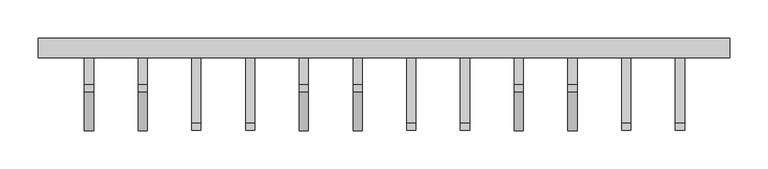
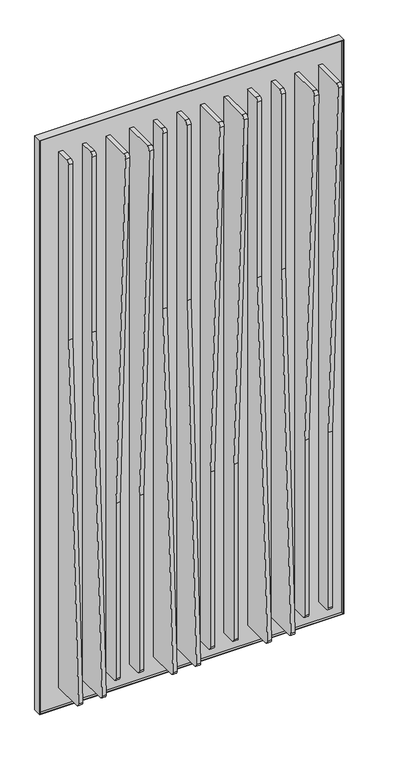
"""IFC4 building model written with IfcOpenShell, lengths in millimetres: proxy geometry, Frames_Plungle 2.3dm."""

from ifc_helpers import new_model, si_unit, point, frame, frame_2d, origin, place, context, project, spatial, polyline, circle_curve, trimmed, segment, composite_curve, outline, extrude, source, transform, mapped, element, save


def generic_models_3c122afe(model_context):
    return source(origin(), model_context, "Body", "SweptSolid", [
        extrude(outline(composite_curve([segment(polyline([(109.527821, 1808.782073), (151.027821, 1808.782073), (151.027821, 125.282073), (59.1906878, 125.282073)]), True, "CONTINUOUS"), segment(trimmed(circle_curve(frame_2d((59.1906878, 135.282073)), 10.0), [point((59.1906878, 125.282073))], [point((49.2009157, 135.7342385))], False, "CARTESIAN"), True, "CONTINUOUS"), segment(polyline([(49.2009157, 135.7342385), (99.527821, 1247.6154063), (99.527821, 1798.782073)]), True, "CONTINUOUS"), segment(trimmed(circle_curve(frame_2d((109.527821, 1798.782073)), 10.0), [point((99.527821, 1798.782073))], [point((109.527821, 1808.782073))], False, "CARTESIAN"), True, "CONTINUOUS")], self_intersect=False)), frame((7887.1043094, 0.0, 0.0), z_axis=(1.0, 0.0, 0.0), x_axis=(0.0, 1.0, 0.0)), (0.0, 0.0, 1.0), 12.0),
        extrude(outline(composite_curve([segment(polyline([(109.527821, 1808.782073), (151.027821, 1808.782073), (151.027821, 125.282073), (59.1906878, 125.282073)]), True, "CONTINUOUS"), segment(trimmed(circle_curve(frame_2d((59.1906878, 135.282073)), 10.0), [point((59.1906878, 125.282073))], [point((49.2009157, 135.7342385))], False, "CARTESIAN"), True, "CONTINUOUS"), segment(polyline([(49.2009157, 135.7342385), (99.527821, 1247.6154063), (99.527821, 1798.782073)]), True, "CONTINUOUS"), segment(trimmed(circle_curve(frame_2d((109.527821, 1798.782073)), 10.0), [point((99.527821, 1798.782073))], [point((109.527821, 1808.782073))], False, "CARTESIAN"), True, "CONTINUOUS")], self_intersect=False)), frame((7816.8543094, 0.0, 0.0), z_axis=(1.0, 0.0, 0.0), x_axis=(0.0, 1.0, 0.0)), (0.0, 0.0, 1.0), 12.0),
        extrude(outline(composite_curve([segment(polyline([(109.527821, 1809.7876144), (151.027821, 1809.7876144), (151.027821, 126.2876144), (59.1906878, 126.2876144)]), True, "CONTINUOUS"), segment(trimmed(circle_curve(frame_2d((59.1906878, 136.2876144)), 10.0), [point((59.1906878, 126.2876144))], [point((49.2009157, 136.7397799))], False, "CARTESIAN"), True, "CONTINUOUS"), segment(polyline([(49.2009157, 136.7397799), (99.527821, 1248.6209477), (99.527821, 1799.7876144)]), True, "CONTINUOUS"), segment(trimmed(circle_curve(frame_2d((109.527821, 1799.7876144)), 10.0), [point((99.527821, 1799.7876144))], [point((109.527821, 1809.7876144))], False, "CARTESIAN"), True, "CONTINUOUS")], self_intersect=False)), frame((8168.1031988, 0.0, 0.0), z_axis=(1.0, 0.0, 0.0), x_axis=(0.0, 1.0, 0.0)), (0.0, 0.0, 1.0), 12.0),
        extrude(outline(composite_curve([segment(polyline([(109.527821, 1808.782073), (151.027821, 1808.782073), (151.027821, 125.282073), (59.1906878, 125.282073)]), True, "CONTINUOUS"), segment(trimmed(circle_curve(frame_2d((59.1906878, 135.282073)), 10.0), [point((59.1906878, 125.282073))], [point((49.2009157, 135.7342385))], False, "CARTESIAN"), True, "CONTINUOUS"), segment(polyline([(49.2009157, 135.7342385), (99.527821, 1247.6154063), (99.527821, 1798.782073)]), True, "CONTINUOUS"), segment(trimmed(circle_curve(frame_2d((109.527821, 1798.782073)), 10.0), [point((99.527821, 1798.782073))], [point((109.527821, 1808.782073))], False, "CARTESIAN"), True, "CONTINUOUS")], self_intersect=False)), frame((8097.8531988, 0.0, 0.0), z_axis=(1.0, 0.0, 0.0), x_axis=(0.0, 1.0, 0.0)), (0.0, 0.0, 1.0), 12.0),
        extrude(outline(composite_curve([segment(polyline([(109.527821, 1808.782073), (151.027821, 1808.782073), (151.027821, 125.282073), (59.1906878, 125.282073)]), True, "CONTINUOUS"), segment(trimmed(circle_curve(frame_2d((59.1906878, 135.282073)), 10.0), [point((59.1906878, 125.282073))], [point((49.2009157, 135.7342385))], False, "CARTESIAN"), True, "CONTINUOUS"), segment(polyline([(49.2009157, 135.7342385), (99.527821, 1247.6154063), (99.527821, 1798.782073)]), True, "CONTINUOUS"), segment(trimmed(circle_curve(frame_2d((109.527821, 1798.782073)), 10.0), [point((99.527821, 1798.782073))], [point((109.527821, 1808.782073))], False, "CARTESIAN"), True, "CONTINUOUS")], self_intersect=False)), frame((8449.1041754, 0.0, 0.0), z_axis=(1.0, 0.0, 0.0), x_axis=(0.0, 1.0, 0.0)), (0.0, 0.0, 1.0), 12.0),
        extrude(outline(composite_curve([segment(polyline([(109.527821, 1808.782073), (151.027821, 1808.782073), (151.027821, 125.282073), (59.1906878, 125.282073)]), True, "CONTINUOUS"), segment(trimmed(circle_curve(frame_2d((59.1906878, 135.282073)), 10.0), [point((59.1906878, 125.282073))], [point((49.2009157, 135.7342385))], False, "CARTESIAN"), True, "CONTINUOUS"), segment(polyline([(49.2009157, 135.7342385), (99.527821, 1247.6154063), (99.527821, 1798.782073)]), True, "CONTINUOUS"), segment(trimmed(circle_curve(frame_2d((109.527821, 1798.782073)), 10.0), [point((99.527821, 1798.782073))], [point((109.527821, 1808.782073))], False, "CARTESIAN"), True, "CONTINUOUS")], self_intersect=False)), frame((8378.8541754, 0.0, 0.0), z_axis=(1.0, 0.0, 0.0), x_axis=(0.0, 1.0, 0.0)), (0.0, 0.0, 1.0), 12.0),
        extrude(outline(composite_curve([segment(trimmed(circle_curve(frame_2d((109.527821, 136.2876144)), 10.0), [point((109.527821, 126.2876144))], [point((99.527821, 136.2876144))], False, "CARTESIAN"), True, "CONTINUOUS"), segment(polyline([(99.527821, 136.2876144), (99.527821, 687.4542811), (49.2009157, 1799.3354489)]), True, "CONTINUOUS"), segment(trimmed(circle_curve(frame_2d((59.1906878, 1799.7876144)), 10.0), [point((49.2009157, 1799.3354489))], [point((59.1906878, 1809.7876144))], False, "CARTESIAN"), True, "CONTINUOUS"), segment(polyline([(59.1906878, 1809.7876144), (151.027821, 1809.7876144), (151.027821, 126.2876144), (109.527821, 126.2876144)]), True, "CONTINUOUS")], self_intersect=False)), frame((8589.6043094, 0.0, 0.0), z_axis=(1.0, 0.0, 0.0), x_axis=(0.0, 1.0, 0.0)), (0.0, 0.0, 1.0), 12.0),
        extrude(outline(composite_curve([segment(trimmed(circle_curve(frame_2d((109.527821, 136.2876144)), 10.0), [point((109.527821, 126.2876144))], [point((99.527821, 136.2876144))], False, "CARTESIAN"), True, "CONTINUOUS"), segment(polyline([(99.527821, 136.2876144), (99.527821, 687.4542811), (49.2009157, 1799.3354489)]), True, "CONTINUOUS"), segment(trimmed(circle_curve(frame_2d((59.1906878, 1799.7876144)), 10.0), [point((49.2009157, 1799.3354489))], [point((59.1906878, 1809.7876144))], False, "CARTESIAN"), True, "CONTINUOUS"), segment(polyline([(59.1906878, 1809.7876144), (151.027821, 1809.7876144), (151.027821, 126.2876144), (109.527821, 126.2876144)]), True, "CONTINUOUS")], self_intersect=False)), frame((8519.3543094, 0.0, 0.0), z_axis=(1.0, 0.0, 0.0), x_axis=(0.0, 1.0, 0.0)), (0.0, 0.0, 1.0), 12.0),
        extrude(outline(composite_curve([segment(trimmed(circle_curve(frame_2d((109.527821, 135.282073)), 10.0), [point((109.527821, 125.282073))], [point((99.527821, 135.282073))], False, "CARTESIAN"), True, "CONTINUOUS"), segment(polyline([(99.527821, 135.282073), (99.527821, 686.4487397), (49.2009157, 1798.3299075)]), True, "CONTINUOUS"), segment(trimmed(circle_curve(frame_2d((59.1906878, 1798.782073)), 10.0), [point((49.2009157, 1798.3299075))], [point((59.1906878, 1808.782073))], False, "CARTESIAN"), True, "CONTINUOUS"), segment(polyline([(59.1906878, 1808.782073), (151.027821, 1808.782073), (151.027821, 125.282073), (109.527821, 125.282073)]), True, "CONTINUOUS")], self_intersect=False)), frame((8308.6043094, 0.0, 0.0), z_axis=(1.0, 0.0, 0.0), x_axis=(0.0, 1.0, 0.0)), (0.0, 0.0, 1.0), 12.0),
        extrude(outline(composite_curve([segment(trimmed(circle_curve(frame_2d((109.527821, 135.282073)), 10.0), [point((109.527821, 125.282073))], [point((99.527821, 135.282073))], False, "CARTESIAN"), True, "CONTINUOUS"), segment(polyline([(99.527821, 135.282073), (99.527821, 686.4487397), (49.2009157, 1798.3299075)]), True, "CONTINUOUS"), segment(trimmed(circle_curve(frame_2d((59.1906878, 1798.782073)), 10.0), [point((49.2009157, 1798.3299075))], [point((59.1906878, 1808.782073))], False, "CARTESIAN"), True, "CONTINUOUS"), segment(polyline([(59.1906878, 1808.782073), (151.027821, 1808.782073), (151.027821, 125.282073), (109.527821, 125.282073)]), True, "CONTINUOUS")], self_intersect=False)), frame((8238.3543094, 0.0, 0.0), z_axis=(1.0, 0.0, 0.0), x_axis=(0.0, 1.0, 0.0)), (0.0, 0.0, 1.0), 12.0),
        extrude(outline(composite_curve([segment(trimmed(circle_curve(frame_2d((109.527821, 135.282073)), 10.0), [point((109.527821, 125.282073))], [point((99.527821, 135.282073))], False, "CARTESIAN"), True, "CONTINUOUS"), segment(polyline([(99.527821, 135.282073), (99.527821, 686.4487397), (49.2009157, 1798.3299075)]), True, "CONTINUOUS"), segment(trimmed(circle_curve(frame_2d((59.1906878, 1798.782073)), 10.0), [point((49.2009157, 1798.3299075))], [point((59.1906878, 1808.782073))], False, "CARTESIAN"), True, "CONTINUOUS"), segment(polyline([(59.1906878, 1808.782073), (151.027821, 1808.782073), (151.027821, 125.282073), (109.527821, 125.282073)]), True, "CONTINUOUS")], self_intersect=False)), frame((8027.6043094, 0.0, 0.0), z_axis=(1.0, 0.0, 0.0), x_axis=(0.0, 1.0, 0.0)), (0.0, 0.0, 1.0), 12.0),
        extrude(outline(composite_curve([segment(trimmed(circle_curve(frame_2d((109.527821, 135.282073)), 10.0), [point((109.527821, 125.282073))], [point((99.527821, 135.282073))], False, "CARTESIAN"), True, "CONTINUOUS"), segment(polyline([(99.527821, 135.282073), (99.527821, 686.4487397), (49.2009157, 1798.3299075)]), True, "CONTINUOUS"), segment(trimmed(circle_curve(frame_2d((59.1906878, 1798.782073)), 10.0), [point((49.2009157, 1798.3299075))], [point((59.1906878, 1808.782073))], False, "CARTESIAN"), True, "CONTINUOUS"), segment(polyline([(59.1906878, 1808.782073), (151.027821, 1808.782073), (151.027821, 125.282073), (109.527821, 125.282073)]), True, "CONTINUOUS")], self_intersect=False)), frame((7957.3543094, 0.0, 0.0), z_axis=(1.0, 0.0, 0.0), x_axis=(0.0, 1.0, 0.0)), (0.0, 0.0, 1.0), 12.0),
        extrude(outline(polyline([(65.032073, 7756.6043094), (65.032073, 8660.6043094), (1869.032073, 8660.6043094), (1869.032073, 7756.6043094), (65.032073, 7756.6043094)]), holes=[polyline([(67.032073, 7758.6043094), (1867.032073, 7758.6043094), (1867.032073, 8658.6043094), (67.032073, 8658.6043094), (67.032073, 7758.6043094)])]), frame((0.0, 144.327821, 0.0), z_axis=(0.0, 1.0, 0.0), x_axis=(0.0, 0.0, 1.0)), (0.0, 0.0, 1.0), 25.4),
        extrude(outline(polyline([(8658.6043094, 151.027821), (7758.6043094, 151.027821), (7758.6043094, 163.027821), (8658.6043094, 163.027821), (8658.6043094, 151.027821)])), frame((0.0, 0.0, 67.032073), z_axis=(0.0, 0.0, 1.0), x_axis=(1.0, 0.0, 0.0)), (0.0, 0.0, 1.0), 1800.0),
    ])


if __name__ == "__main__":
    model = new_model("IFC4")
    model_context = context("Model", 3, world=origin())
    ifc_project = project(units=[si_unit("LENGTHUNIT", "METRE", prefix="MILLI")], contexts=[model_context])
    site = spatial("IfcSite", under=ifc_project)
    building = spatial("IfcBuilding", under=site)
    placement = place(None, origin())
    generic_models_shape = generic_models_3c122afe(model_context)
    element("IfcBuildingElementProxy", 1, Name="Frames_Plungle 2.3dm", ObjectType="Frames_Plungle 2.3dm", at=placement, inside=building, context=model_context, shape_type="MappedRepresentation", body=[
        mapped(generic_models_shape, transform((0.0, 0.0, 0.0), x_axis=(1.0, 0.0, 0.0), y_axis=(0.0, 1.0, 0.0), z_axis=(0.0, 0.0, 1.0))),
    ])
    save(model, "model.ifc")
